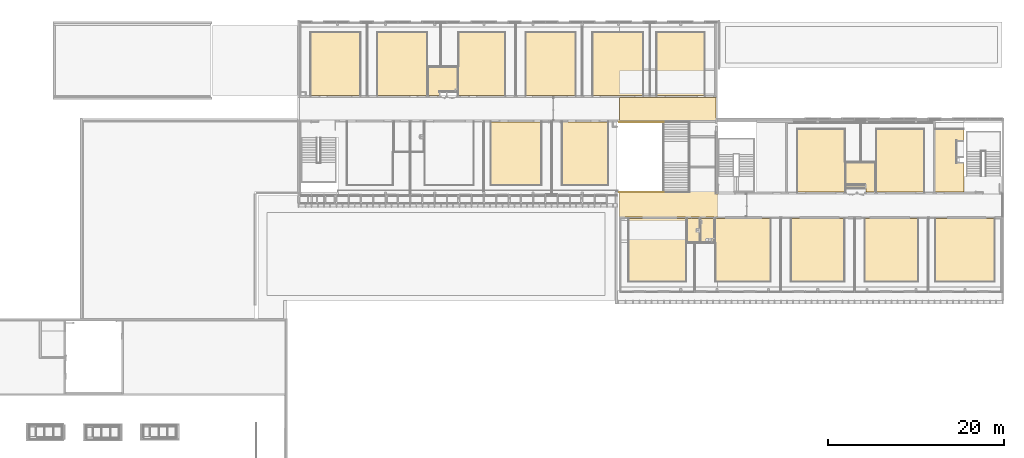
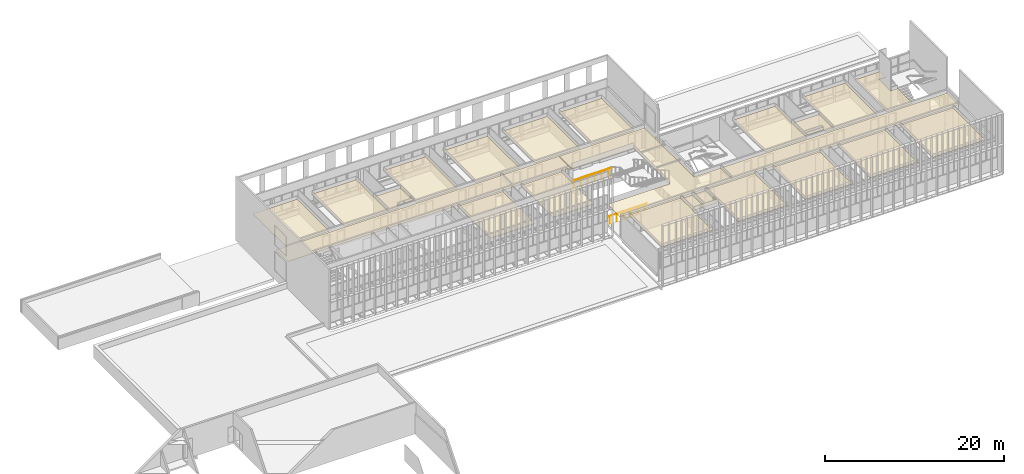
# One storey, part 103 of 106: 21 coverings, 2 railings.
"""IFC2X3 building model written with IfcOpenShell, lengths in centimetres."""

from ifc_helpers import new_model, entity, si_unit, converted_unit, derived_unit, direction, frame, frame_2d, origin, origin_2d_with_axis, place, context, subcontext, project, spatial, polyline, rectangle, outline, extrude, material, layer, layer_set, layer_usage, type_object, element, save


model = new_model("IFC2X3")

# Units and contexts
model_context = context("Model", 3, precision=0.001, world=origin(), true_north=direction((6.12303176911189e-17, 1.0)))
body_context = subcontext(model_context, "Body", "Model", "MODEL_VIEW")
ifc_project = project(units=[si_unit("LENGTHUNIT", "METRE", prefix="CENTI"), si_unit("AREAUNIT", "SQUARE_METRE"), si_unit("VOLUMEUNIT", "CUBIC_METRE"), converted_unit("PLANEANGLEUNIT", "DEGREE", entity("IfcRatioMeasure", 0.0174532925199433), si_unit("PLANEANGLEUNIT", "RADIAN"), dimensions=[0, 0, 0, 0, 0, 0, 0]), si_unit("MASSUNIT", "GRAM", prefix="KILO"), derived_unit("MASSDENSITYUNIT", [(si_unit("MASSUNIT", "GRAM", prefix="KILO"), 1), (si_unit("LENGTHUNIT", "METRE"), -3)]), si_unit("TIMEUNIT", "SECOND"), si_unit("FREQUENCYUNIT", "HERTZ"), si_unit("THERMODYNAMICTEMPERATUREUNIT", "DEGREE_CELSIUS"), derived_unit("THERMALTRANSMITTANCEUNIT", [(si_unit("MASSUNIT", "GRAM", prefix="KILO"), 1), (si_unit("THERMODYNAMICTEMPERATUREUNIT", "KELVIN"), -1), (si_unit("TIMEUNIT", "SECOND"), -3)]), derived_unit("VOLUMETRICFLOWRATEUNIT", [(si_unit("LENGTHUNIT", "METRE"), 3), (si_unit("TIMEUNIT", "SECOND"), -1)]), si_unit("ELECTRICCURRENTUNIT", "AMPERE"), si_unit("ELECTRICVOLTAGEUNIT", "VOLT"), si_unit("POWERUNIT", "WATT"), si_unit("FORCEUNIT", "NEWTON", prefix="KILO"), si_unit("ILLUMINANCEUNIT", "LUX"), si_unit("LUMINOUSFLUXUNIT", "LUMEN"), si_unit("LUMINOUSINTENSITYUNIT", "CANDELA"), derived_unit("USERDEFINED", [(si_unit("MASSUNIT", "GRAM", prefix="KILO"), -1), (si_unit("LENGTHUNIT", "METRE"), -2), (si_unit("TIMEUNIT", "SECOND"), 3), (si_unit("LUMINOUSFLUXUNIT", "LUMEN"), 1)]), derived_unit("LINEARVELOCITYUNIT", [(si_unit("LENGTHUNIT", "METRE"), 1), (si_unit("TIMEUNIT", "SECOND"), -1)]), si_unit("PRESSUREUNIT", "PASCAL"), derived_unit("USERDEFINED", [(si_unit("LENGTHUNIT", "METRE"), -2), (si_unit("MASSUNIT", "GRAM", prefix="KILO"), 1), (si_unit("TIMEUNIT", "SECOND"), -2)])], contexts=[model_context])

# Site, building, storey, space
site_placement = place(None, frame((-2781.94577612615, 7442.24238424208, 0.0)))
site = spatial("IfcSite", under=ifc_project, at=site_placement, Name="Default", CompositionType="ELEMENT")
building_placement = place(site_placement, origin())
building = spatial("IfcBuilding", under=site, at=building_placement, CompositionType="ELEMENT")
storey_placement = place(building_placement, frame((0.0, 0.0, 422.0)))
storey = spatial("IfcBuildingStorey", under=building, at=storey_placement, Name="Toiture - Cuisine", CompositionType="ELEMENT", Elevation=421.999999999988)
space_1_placement = place(building_placement, frame((0.0, 0.0, 422.0)))
space_1 = spatial("IfcSpace", under=storey, at=space_1_placement, Name="A-3", CompositionType="ELEMENT", InteriorOrExteriorSpace="INTERNAL")

# Covering
ifc_material_1 = material(Name="00 - VIDE D'AIR")
ifc_layer_1 = layer(ifc_material_1, 5.7)
ifc_material_2 = material(Name="01 - Enduit/Plâtre - faux plafonds")
ifc_layer_2 = layer(ifc_material_2, 1.3)
ifc_layer_set = layer_set([ifc_layer_1, ifc_layer_2], Name="Plafond composé:11-Plafond 1BA13")
ifc_layer_usage_1 = layer_usage(ifc_layer_set, "AXIS3", "POSITIVE", 0.0)
covering_type_1 = type_object("IfcCoveringType", Name="Plafond composé:11-Plafond 1BA13", PredefinedType="CEILING")
covering_1_placement = place(space_1_placement, origin())
element("IfcCovering", 1, at=covering_1_placement, inside=space_1, type_object=covering_type_1, material=ifc_layer_usage_1, Name="Plafond composé:11-Plafond 1BA13", ObjectType="Plafond composé:11-Plafond 1BA13", PredefinedType="CEILING", context=body_context, shape_type="SweptSolid", body=[
    extrude(outline(polyline([(-128.333333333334, -146.0), (206.666666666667, -146.0), (206.666666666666, 188.0), (-78.3333333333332, 188.0), (-78.3333333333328, -42.0), (-128.333333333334, -42.0), (-128.333333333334, -146.0)])), frame((-2001.49988284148, -1781.74570030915, 270.0), z_axis=(0.0, 0.0, 1.0), x_axis=(0.0, 1.0, 0.0)), (0.0, 0.0, 1.0), 7.00000000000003),
])

# Space
space_2_placement = place(building_placement, frame((0.0, 0.0, 422.0)))
space_2 = spatial("IfcSpace", under=storey, at=space_2_placement, Name="A-1", CompositionType="ELEMENT", InteriorOrExteriorSpace="INTERNAL")

# Covering
ifc_layer_usage_2 = layer_usage(ifc_layer_set, "AXIS3", "POSITIVE", 0.0)
covering_type_2 = type_object("IfcCoveringType", Name="Plafond composé:11-Plafond 1BA13", PredefinedType="CEILING")
covering_2_placement = place(space_2_placement, origin())
element("IfcCovering", 2, at=covering_2_placement, inside=space_2, type_object=covering_type_2, material=ifc_layer_usage_2, Name="Plafond composé:11-Plafond 1BA13", ObjectType="Plafond composé:11-Plafond 1BA13", PredefinedType="CEILING", context=body_context, shape_type="SweptSolid", body=[
    extrude(rectangle(XDim=718.048500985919, YDim=567.899997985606, at=frame_2d((-1.13686837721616e-13, -4.2632564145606e-13), x_axis=(1.0, 0.0))), frame((-7998.24987867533, -451.024250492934, 270.0), z_axis=(0.0, 0.0, 1.0), x_axis=(0.0, 1.0, 0.0)), (0.0, 0.0, 1.0), 7.00000000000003),
])

# Space
space_3_placement = place(building_placement, frame((0.0, 0.0, 422.0)))
space_3 = spatial("IfcSpace", under=storey, at=space_3_placement, Name="A-1", CompositionType="ELEMENT", InteriorOrExteriorSpace="INTERNAL")

# Covering
ifc_layer_usage_3 = layer_usage(ifc_layer_set, "AXIS3", "POSITIVE", 0.0)
covering_type_3 = type_object("IfcCoveringType", Name="Plafond composé:11-Plafond 1BA13", PredefinedType="CEILING")
covering_3_placement = place(space_3_placement, origin())
element("IfcCovering", 3, at=covering_3_placement, inside=space_3, type_object=covering_type_3, material=ifc_layer_usage_3, Name="Plafond composé:11-Plafond 1BA13", ObjectType="Plafond composé:11-Plafond 1BA13", PredefinedType="CEILING", context=body_context, shape_type="SweptSolid", body=[
    extrude(outline(polyline([(-367.032333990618, -378.0), (351.016166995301, -378.0), (351.016166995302, 190.0), (16.0161669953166, 190.0), (16.0161669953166, 188.0), (-367.032333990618, 188.0), (-367.032333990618, -378.0)])), frame((-7143.79987968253, -459.032333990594, 270.0), z_axis=(0.0, 0.0, 1.0), x_axis=(0.0, -1.0, 0.0)), (0.0, 0.0, 1.0), 7.00000000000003),
])

# Space
space_4_placement = place(building_placement, frame((0.0, 0.0, 422.0)))
space_4 = spatial("IfcSpace", under=storey, at=space_4_placement, Name="A-3", CompositionType="ELEMENT", InteriorOrExteriorSpace="INTERNAL")

# Covering
ifc_layer_usage_4 = layer_usage(ifc_layer_set, "AXIS3", "POSITIVE", 0.0)
covering_type_4 = type_object("IfcCoveringType", Name="Plafond composé:11-Plafond 1BA13", PredefinedType="CEILING")
covering_4_placement = place(space_4_placement, origin())
element("IfcCovering", 4, at=covering_4_placement, inside=space_4, type_object=covering_type_4, material=ifc_layer_usage_4, Name="Plafond composé:11-Plafond 1BA13", ObjectType="Plafond composé:11-Plafond 1BA13", PredefinedType="CEILING", context=body_context, shape_type="SweptSolid", body=[
    extrude(outline(polyline([(-125.0, -26.0), (-125.0, -154.0), (200.0, -154.0), (200.0, 180.0), (-75.0, 180.0), (-75.0, -26.0), (-125.0, -26.0)])), frame((-6789.79987968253, -685.048500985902, 270.0), z_axis=(0.0, 0.0, -1.0), x_axis=(0.0, 1.0, 0.0)), (0.0, 0.0, -1.0), 7.00000000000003),
])

# Space
space_5_placement = place(building_placement, frame((0.0, 0.0, 422.0)))
space_5 = spatial("IfcSpace", under=storey, at=space_5_placement, Name="A-1", CompositionType="ELEMENT", InteriorOrExteriorSpace="INTERNAL")

# Covering
ifc_layer_usage_5 = layer_usage(ifc_layer_set, "AXIS3", "POSITIVE", 0.0)
covering_type_5 = type_object("IfcCoveringType", Name="Plafond composé:11-Plafond 1BA13", PredefinedType="CEILING")
covering_5_placement = place(space_5_placement, origin())
element("IfcCovering", 5, at=covering_5_placement, inside=space_5, type_object=covering_type_5, material=ifc_layer_usage_5, Name="Plafond composé:11-Plafond 1BA13", ObjectType="Plafond composé:11-Plafond 1BA13", PredefinedType="CEILING", context=body_context, shape_type="SweptSolid", body=[
    extrude(outline(polyline([(-351.016166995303, -355.333333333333), (367.032333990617, -355.333333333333), (367.032333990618, 176.666666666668), (-16.0161669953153, 176.666666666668), (-16.0161669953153, 178.666666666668), (-351.016166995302, 178.666666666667), (-351.016166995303, -355.333333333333)])), frame((-6421.13321301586, -459.032333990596, 270.0), z_axis=(0.0, 0.0, 1.0), x_axis=(0.0, 1.0, 0.0)), (0.0, 0.0, 1.0), 7.00000000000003),
])

# Space
space_6_placement = place(building_placement, frame((0.0, 0.0, 422.0)))
space_6 = spatial("IfcSpace", under=storey, at=space_6_placement, Name="A-1", CompositionType="ELEMENT", InteriorOrExteriorSpace="INTERNAL")

# Covering
ifc_layer_usage_6 = layer_usage(ifc_layer_set, "AXIS3", "POSITIVE", 0.0)
covering_type_6 = type_object("IfcCoveringType", Name="Plafond composé:11-Plafond 1BA13", PredefinedType="CEILING")
covering_6_placement = place(space_6_placement, origin())
element("IfcCovering", 6, at=covering_6_placement, inside=space_6, type_object=covering_type_6, material=ifc_layer_usage_6, Name="Plafond composé:11-Plafond 1BA13", ObjectType="Plafond composé:11-Plafond 1BA13", PredefinedType="CEILING", context=body_context, shape_type="SweptSolid", body=[
    extrude(rectangle(XDim=718.048500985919, YDim=566.012902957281, at=origin_2d_with_axis()), frame((-5548.79342820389, -451.024250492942, 270.0), z_axis=(0.0, 0.0, 1.0), x_axis=(0.0, 1.0, 0.0)), (0.0, 0.0, 1.0), 7.00000000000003),
])

# Space
space_7_placement = place(building_placement, frame((0.0, 0.0, 422.0)))
space_7 = spatial("IfcSpace", under=storey, at=space_7_placement, Name="A-1", CompositionType="ELEMENT", InteriorOrExteriorSpace="INTERNAL")

# Covering
ifc_layer_usage_7 = layer_usage(ifc_layer_set, "AXIS3", "POSITIVE", 0.0)
covering_type_7 = type_object("IfcCoveringType", Name="Plafond composé:11-Plafond 1BA13", PredefinedType="CEILING")
covering_7_placement = place(space_7_placement, origin())
element("IfcCovering", 7, at=covering_7_placement, inside=space_7, type_object=covering_type_7, material=ifc_layer_usage_7, Name="Plafond composé:11-Plafond 1BA13", ObjectType="Plafond composé:11-Plafond 1BA13", PredefinedType="CEILING", context=body_context, shape_type="SweptSolid", body=[
    extrude(rectangle(XDim=718.048500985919, YDim=576.162294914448, at=frame_2d((-1.4210854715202e-13, 0.0), x_axis=(1.0, 0.0))), frame((-4783.7187322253, -451.024250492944, 270.0), z_axis=(0.0, 0.0, 1.0), x_axis=(0.0, 1.0, 0.0)), (0.0, 0.0, 1.0), 7.00000000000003),
])

# Space
space_8_placement = place(building_placement, frame((0.0, 0.0, 422.0)))
space_8 = spatial("IfcSpace", under=storey, at=space_8_placement, Name="A-1", CompositionType="ELEMENT", InteriorOrExteriorSpace="INTERNAL")

# Covering
ifc_layer_usage_8 = layer_usage(ifc_layer_set, "AXIS3", "POSITIVE", 0.0)
covering_type_8 = type_object("IfcCoveringType", Name="Plafond composé:11-Plafond 1BA13", PredefinedType="CEILING")
covering_8_placement = place(space_8_placement, origin())
element("IfcCovering", 8, at=covering_8_placement, inside=space_8, type_object=covering_type_8, material=ifc_layer_usage_8, Name="Plafond composé:11-Plafond 1BA13", ObjectType="Plafond composé:11-Plafond 1BA13", PredefinedType="CEILING", context=body_context, shape_type="SweptSolid", body=[
    extrude(rectangle(XDim=718.079033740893, YDim=523.999999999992, at=frame_2d((-1.98951966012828e-13, -4.2632564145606e-13), x_axis=(1.0, 0.0))), frame((-5158.49987760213, -1469.03951677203, 270.0), z_axis=(0.0, 0.0, 1.0), x_axis=(0.0, -1.0, 0.0)), (0.0, 0.0, 1.0), 7.00000000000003),
])

# Space
space_9_placement = place(building_placement, frame((0.0, 0.0, 422.0)))
space_9 = spatial("IfcSpace", under=storey, at=space_9_placement, Name="A-1", CompositionType="ELEMENT", InteriorOrExteriorSpace="INTERNAL")

# Coverings
ifc_layer_usage_9 = layer_usage(ifc_layer_set, "AXIS3", "POSITIVE", 0.0)
covering_type_9 = type_object("IfcCoveringType", Name="Plafond composé:11-Plafond 1BA13", PredefinedType="CEILING")
covering_9_placement = place(space_9_placement, origin())
element("IfcCovering", 9, at=covering_9_placement, inside=space_9, type_object=covering_type_9, material=ifc_layer_usage_9, Name="Plafond composé:11-Plafond 1BA13", ObjectType="Plafond composé:11-Plafond 1BA13", PredefinedType="CEILING", context=body_context, shape_type="SweptSolid", body=[
    extrude(rectangle(XDim=718.079033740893, YDim=576.000000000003, at=frame_2d((2.27373675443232e-13, 0.0), x_axis=(1.0, 0.0))), frame((-5942.49987760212, -1469.03951677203, 270.0), z_axis=(0.0, 0.0, 1.0), x_axis=(0.0, -1.0, 0.0)), (0.0, 0.0, 1.0), 7.00000000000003),
])
ifc_layer_usage_10 = layer_usage(ifc_layer_set, "AXIS3", "POSITIVE", 0.0)
covering_type_10 = type_object("IfcCoveringType", Name="Plafond composé:11-Plafond 1BA13", PredefinedType="CEILING")
covering_10_placement = place(building_placement, frame((0.0, 0.0, 422.0)))
element("IfcCovering", 10, at=covering_10_placement, inside=storey, type_object=covering_type_10, material=ifc_layer_usage_10, Name="Plafond composé:11-Plafond 1BA13", ObjectType="Plafond composé:11-Plafond 1BA13", PredefinedType="CEILING", context=body_context, shape_type="SweptSolid", body=[
    extrude(outline(polyline([(-596.283940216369, -773.399999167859), (-336.206406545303, -773.399999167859), (-336.206406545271, -431.899999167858), (763.824126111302, -431.89999916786), (763.824126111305, 668.099998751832), (483.872627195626, 668.099998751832), (483.872627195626, -130.89999916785), (-315.206406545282, -130.89999916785), (-315.206406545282, 668.099998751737), (-596.283940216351, 668.099998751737), (-596.283940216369, -773.399999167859)])), frame((-4099.89987885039, -1593.87262709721, 270.0), z_axis=(0.0, 0.0, 1.0), x_axis=(0.0, 1.0, 0.0)), (0.0, 0.0, 1.0), 7.00000000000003),
    extrude(rectangle(XDim=3631.50000006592, YDim=259.951498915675, at=frame_2d((0.0, 7.53175299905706e-13), x_axis=(1.0, 0.0))), frame((-6593.74987763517, -960.024250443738, 270.0), z_axis=(0.0, 0.0, 1.0), x_axis=(-1.0, 0.0, 0.0)), (0.0, 0.0, 1.0), 7.00000000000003),
    extrude(rectangle(XDim=2906.49999684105, YDim=260.077533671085, at=origin_2d_with_axis()), frame((-1863.24988126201, -2060.11780047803, 270.0), z_axis=(0.0, 0.0, 1.0), x_axis=(-1.0, 0.0, 0.0)), (0.0, 0.0, 1.0), 7.00000000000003),
])

# Space
space_10_placement = place(building_placement, frame((0.0, 0.0, 422.0)))
space_10 = spatial("IfcSpace", under=storey, at=space_10_placement, Name="A-1", CompositionType="ELEMENT", InteriorOrExteriorSpace="INTERNAL")

# Covering
ifc_layer_usage_11 = layer_usage(ifc_layer_set, "AXIS3", "POSITIVE", 0.0)
covering_type_11 = type_object("IfcCoveringType", Name="Plafond composé:11-Plafond 1BA13", PredefinedType="CEILING")
covering_11_placement = place(space_10_placement, origin())
element("IfcCovering", 11, at=covering_11_placement, inside=space_10, type_object=covering_type_11, material=ifc_layer_usage_11, Name="Plafond composé:11-Plafond 1BA13", ObjectType="Plafond composé:11-Plafond 1BA13", PredefinedType="CEILING", context=body_context, shape_type="SweptSolid", body=[
    extrude(rectangle(XDim=718.048500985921, YDim=548.500000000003, at=frame_2d((-3.97903932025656e-13, 4.2632564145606e-13), x_axis=(1.0, 0.0))), frame((-4069.54987968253, -451.024250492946, 270.0), z_axis=(0.0, 0.0, 1.0), x_axis=(0.0, 1.0, 0.0)), (0.0, 0.0, 1.0), 7.00000000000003),
])

# Space
space_11_placement = place(building_placement, frame((0.0, 0.0, 422.0)))
space_11 = spatial("IfcSpace", under=storey, at=space_11_placement, Name="A-1", CompositionType="ELEMENT", InteriorOrExteriorSpace="INTERNAL")

# Covering
ifc_layer_usage_12 = layer_usage(ifc_layer_set, "AXIS3", "POSITIVE", 0.0)
covering_type_12 = type_object("IfcCoveringType", Name="Plafond composé:11-Plafond 1BA13", PredefinedType="CEILING")
covering_12_placement = place(space_11_placement, origin())
element("IfcCovering", 12, at=covering_12_placement, inside=space_11, type_object=covering_type_12, material=ifc_layer_usage_12, Name="Plafond composé:11-Plafond 1BA13", ObjectType="Plafond composé:11-Plafond 1BA13", PredefinedType="CEILING", context=body_context, shape_type="SweptSolid", body=[
    extrude(outline(polyline([(-332.718977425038, -210.0), (-52.7189774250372, -210.0), (-52.7189774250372, -208.0), (385.437954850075, -208.0), (385.437954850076, 418.0), (-332.718977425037, 418.0), (-332.718977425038, -210.0)])), frame((-3465.29988284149, -2542.8755447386, 270.0), z_axis=(0.0, 0.0, 1.0), x_axis=(0.0, -1.0, 0.0)), (0.0, 0.0, 1.0), 7.00000000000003),
])

# Space
space_12_placement = place(building_placement, frame((0.0, 0.0, 422.0)))
space_12 = spatial("IfcSpace", under=storey, at=space_12_placement, Name="A-1", CompositionType="ELEMENT", InteriorOrExteriorSpace="INTERNAL")

# Covering
ifc_layer_usage_13 = layer_usage(ifc_layer_set, "AXIS3", "POSITIVE", 0.0)
covering_type_13 = type_object("IfcCoveringType", Name="Plafond composé:11-Plafond 1BA13", PredefinedType="CEILING")
covering_13_placement = place(space_12_placement, origin())
element("IfcCovering", 13, at=covering_13_placement, inside=space_12, type_object=covering_type_13, material=ifc_layer_usage_13, Name="Plafond composé:11-Plafond 1BA13", ObjectType="Plafond composé:11-Plafond 1BA13", PredefinedType="CEILING", context=body_context, shape_type="SweptSolid", body=[
    extrude(rectangle(XDim=605.999999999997, YDim=718.156932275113, at=frame_2d((-2.27373675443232e-13, -2.27373675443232e-13), x_axis=(1.0, 0.0))), frame((-2510.29988284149, -2569.23503345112, 270.0), z_axis=(0.0, 0.0, 1.0), x_axis=(-1.0, 0.0, 0.0)), (0.0, 0.0, 1.0), 7.00000000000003),
])

# Space
space_13_placement = place(building_placement, frame((0.0, 0.0, 422.0)))
space_13 = spatial("IfcSpace", under=storey, at=space_13_placement, Name="A-1", CompositionType="ELEMENT", InteriorOrExteriorSpace="INTERNAL")

# Covering
ifc_layer_usage_14 = layer_usage(ifc_layer_set, "AXIS3", "POSITIVE", 0.0)
covering_type_14 = type_object("IfcCoveringType", Name="Plafond composé:11-Plafond 1BA13", PredefinedType="CEILING")
covering_14_placement = place(space_13_placement, origin())
element("IfcCovering", 14, at=covering_14_placement, inside=space_13, type_object=covering_type_14, material=ifc_layer_usage_14, Name="Plafond composé:11-Plafond 1BA13", ObjectType="Plafond composé:11-Plafond 1BA13", PredefinedType="CEILING", context=body_context, shape_type="SweptSolid", body=[
    extrude(rectangle(XDim=606.000000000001, YDim=718.156932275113, at=origin_2d_with_axis()), frame((-1670.29988284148, -2569.23503345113, 270.0), z_axis=(0.0, 0.0, 1.0), x_axis=(-1.0, 0.0, 0.0)), (0.0, 0.0, 1.0), 7.00000000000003),
])

# Space
space_14_placement = place(building_placement, frame((0.0, 0.0, 422.0)))
space_14 = spatial("IfcSpace", under=storey, at=space_14_placement, Name="A-1", CompositionType="ELEMENT", InteriorOrExteriorSpace="INTERNAL")

# Covering
ifc_layer_usage_15 = layer_usage(ifc_layer_set, "AXIS3", "POSITIVE", 0.0)
covering_type_15 = type_object("IfcCoveringType", Name="Plafond composé:11-Plafond 1BA13", PredefinedType="CEILING")
covering_15_placement = place(space_14_placement, origin())
element("IfcCovering", 15, at=covering_15_placement, inside=space_14, type_object=covering_type_15, material=ifc_layer_usage_15, Name="Plafond composé:11-Plafond 1BA13", ObjectType="Plafond composé:11-Plafond 1BA13", PredefinedType="CEILING", context=body_context, shape_type="SweptSolid", body=[
    extrude(rectangle(XDim=676.0, YDim=718.156932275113, at=frame_2d((-2.27373675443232e-13, 0.0), x_axis=(1.0, 0.0))), frame((-835.299882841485, -2569.23503345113, 270.0), z_axis=(0.0, 0.0, 1.0), x_axis=(-1.0, 0.0, 0.0)), (0.0, 0.0, 1.0), 7.00000000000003),
])

# Space
space_15_placement = place(building_placement, frame((0.0, 0.0, 422.0)))
space_15 = spatial("IfcSpace", under=storey, at=space_15_placement, Name="E-6", CompositionType="ELEMENT", InteriorOrExteriorSpace="INTERNAL")

# Covering
ifc_layer_usage_16 = layer_usage(ifc_layer_set, "AXIS3", "POSITIVE", 0.0)
covering_type_16 = type_object("IfcCoveringType", Name="Plafond composé:11-Plafond 1BA13", PredefinedType="CEILING")
covering_16_placement = place(space_15_placement, origin())
element("IfcCovering", 16, at=covering_16_placement, inside=space_15, type_object=covering_type_16, material=ifc_layer_usage_16, Name="Plafond composé:11-Plafond 1BA13", ObjectType="Plafond composé:11-Plafond 1BA13", PredefinedType="CEILING", context=body_context, shape_type="SweptSolid", body=[
    extrude(outline(polyline([(-225.0, -409.519758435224), (105.0, -409.519758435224), (105.0, -79.5197584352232), (15.0, -79.5197584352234), (15.0, 180.480241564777), (105.0, 180.480241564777), (105.0, 308.55927530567), (-225.0, 308.55927530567), (-225.0, -409.519758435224)])), frame((-950.299882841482, -1500.55927520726, 270.0)), (0.0, 0.0, 1.0), 7.00000000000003),
])

# Space
space_16_placement = place(building_placement, frame((0.0, 0.0, 422.0)))
space_16 = spatial("IfcSpace", under=storey, at=space_16_placement, Name="A-1", CompositionType="ELEMENT", InteriorOrExteriorSpace="INTERNAL")

# Covering
ifc_layer_usage_17 = layer_usage(ifc_layer_set, "AXIS3", "POSITIVE", 0.0)
covering_type_17 = type_object("IfcCoveringType", Name="Plafond composé:11-Plafond 1BA13", PredefinedType="CEILING")
covering_17_placement = place(space_16_placement, origin())
element("IfcCovering", 17, at=covering_17_placement, inside=space_16, type_object=covering_type_17, material=ifc_layer_usage_17, Name="Plafond composé:11-Plafond 1BA13", ObjectType="Plafond composé:11-Plafond 1BA13", PredefinedType="CEILING", context=body_context, shape_type="SweptSolid", body=[
    extrude(outline(polyline([(9.35967791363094, -183.399999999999), (354.359677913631, -183.399999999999), (354.359677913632, 364.800000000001), (-363.719355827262, 364.800000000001), (-363.719355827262, -181.400000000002), (9.35967791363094, -181.400000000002), (9.35967791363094, -183.399999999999)])), frame((-1662.09988284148, -1555.71935572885, 270.0), z_axis=(0.0, 0.0, 1.0), x_axis=(0.0, -1.0, 0.0)), (0.0, 0.0, 1.0), 7.00000000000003),
])

# Space
space_17_placement = place(building_placement, frame((0.0, 0.0, 422.0)))
space_17 = spatial("IfcSpace", under=storey, at=space_17_placement, Name="A-1", CompositionType="ELEMENT", InteriorOrExteriorSpace="INTERNAL")

# Covering
ifc_layer_usage_18 = layer_usage(ifc_layer_set, "AXIS3", "POSITIVE", 0.0)
covering_type_18 = type_object("IfcCoveringType", Name="Plafond composé:11-Plafond 1BA13", PredefinedType="CEILING")
covering_18_placement = place(space_17_placement, origin())
element("IfcCovering", 18, at=covering_18_placement, inside=space_17, type_object=covering_type_18, material=ifc_layer_usage_18, Name="Plafond composé:11-Plafond 1BA13", ObjectType="Plafond composé:11-Plafond 1BA13", PredefinedType="CEILING", context=body_context, shape_type="SweptSolid", body=[
    extrude(outline(polyline([(-265.165438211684, -155.942857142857), (34.834561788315, -155.942857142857), (34.834561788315, -153.942857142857), (407.913595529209, -153.942857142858), (407.913595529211, 387.857142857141), (-310.165438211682, 387.857142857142), (-310.165438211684, -155.942857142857), (-265.165438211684, -155.942857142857)])), frame((-2355.44273998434, -1599.9135954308, 270.0), z_axis=(0.0, 0.0, 1.0), x_axis=(0.0, 1.0, 0.0)), (0.0, 0.0, 1.0), 7.00000000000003),
])

# Space
space_18_placement = place(building_placement, frame((0.0, 0.0, 422.0)))
space_18 = spatial("IfcSpace", under=storey, at=space_18_placement, Name="E-8.4", CompositionType="ELEMENT", InteriorOrExteriorSpace="INTERNAL")

# Covering
ifc_layer_usage_19 = layer_usage(ifc_layer_set, "AXIS3", "POSITIVE", 0.0)
covering_type_19 = type_object("IfcCoveringType", Name="Plafond composé:11-Plafond 1BA13", PredefinedType="CEILING")
covering_19_placement = place(space_18_placement, origin())
element("IfcCovering", 19, at=covering_19_placement, inside=space_18, type_object=covering_type_19, material=ifc_layer_usage_19, Name="Plafond composé:11-Plafond 1BA13", ObjectType="Plafond composé:11-Plafond 1BA13", PredefinedType="CEILING", context=body_context, shape_type="SweptSolid", body=[
    extrude(rectangle(XDim=141.899994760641, YDim=270.0, at=frame_2d((4.33431068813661e-13, 2.27373675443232e-13), x_axis=(1.0, 0.0))), frame((-3923.24988022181, -2345.15656731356, 260.0)), (0.0, 0.0, 1.0), 7.00000000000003),
])

# Space
space_19_placement = place(building_placement, frame((0.0, 0.0, 422.0)))
space_19 = spatial("IfcSpace", under=storey, at=space_19_placement, Name="B-21", CompositionType="ELEMENT", InteriorOrExteriorSpace="INTERNAL")

# Covering
ifc_layer_usage_20 = layer_usage(ifc_layer_set, "AXIS3", "POSITIVE", 0.0)
covering_type_20 = type_object("IfcCoveringType", Name="Plafond composé:11-Plafond 1BA13", PredefinedType="CEILING")
covering_20_placement = place(space_19_placement, origin())
element("IfcCovering", 20, at=covering_20_placement, inside=space_19, type_object=covering_type_20, material=ifc_layer_usage_20, Name="Plafond composé:11-Plafond 1BA13", ObjectType="Plafond composé:11-Plafond 1BA13", PredefinedType="CEILING", context=body_context, shape_type="SweptSolid", body=[
    extrude(rectangle(XDim=157.0, YDim=270.000000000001, at=frame_2d((4.33431068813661e-13, 0.0), x_axis=(1.0, 0.0))), frame((-3763.79988284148, -2345.15656731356, 260.0)), (0.0, 0.0, 1.0), 7.00000000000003),
])

# Space
space_20_placement = place(building_placement, frame((0.0, 0.0, 422.0)))
space_20 = spatial("IfcSpace", under=storey, at=space_20_placement, Name="A-1", CompositionType="ELEMENT", InteriorOrExteriorSpace="INTERNAL")

# Covering
ifc_layer_usage_21 = layer_usage(ifc_layer_set, "AXIS3", "POSITIVE", 0.0)
covering_type_21 = type_object("IfcCoveringType", Name="Plafond composé:11-Plafond 1BA13", PredefinedType="CEILING")
covering_21_placement = place(space_20_placement, origin())
element("IfcCovering", 21, at=covering_21_placement, inside=space_20, type_object=covering_type_21, material=ifc_layer_usage_21, Name="Plafond composé:11-Plafond 1BA13", ObjectType="Plafond composé:11-Plafond 1BA13", PredefinedType="CEILING", context=body_context, shape_type="SweptSolid", body=[
    extrude(outline(polyline([(-220.0, -332.718977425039), (438.0, -332.718977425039), (438.0, 385.437954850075), (-218.0, 385.437954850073), (-218.0, -52.7189774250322), (-220.0, -52.7189774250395), (-220.0, -332.718977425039)])), frame((-4224.19987760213, -2542.8755447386, 270.0), z_axis=(0.0, 0.0, 1.0), x_axis=(-1.0, 0.0, 0.0)), (0.0, 0.0, 1.0), 7.00000000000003),
])

# Railings
ifc_material_3 = material(Name="Métal - Acier inoxydable, poli")
railing_1_placement = place(building_placement, frame((0.0, 0.0, 422.0)))
element("IfcRailing", 22, at=railing_1_placement, inside=storey, material=ifc_material_3, Name="Garde-corps:Garde corps 1A0cmHT", ObjectType="Garde-corps:Garde corps 1A0cmHT", PredefinedType="NOTDEFINED", context=body_context, shape_type="SweptSolid", body=[
    extrude(rectangle(XDim=5.00000000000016, YDim=1.19999999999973, at=frame_2d((-1.08357767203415e-13, 0.0), x_axis=(1.0, 0.0))), frame((-4291.47987864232, -1109.49999990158, 0.0), z_axis=(0.0, 0.0, 1.0), x_axis=(0.0, -1.0, 0.0)), (0.0, 0.0, 1.0), 109.5),
    extrude(rectangle(XDim=5.00000000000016, YDim=1.19999999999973, at=frame_2d((1.08357767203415e-13, 0.0), x_axis=(1.0, 0.0))), frame((-4381.47987864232, -1109.49999990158, 0.0), z_axis=(0.0, 0.0, 1.0), x_axis=(0.0, -1.0, 0.0)), (0.0, 0.0, 1.0), 109.5),
    extrude(rectangle(XDim=5.00000000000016, YDim=1.19999999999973, at=frame_2d((1.08357767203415e-13, 0.0), x_axis=(1.0, 0.0))), frame((-4471.47987864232, -1109.49999990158, 0.0), z_axis=(0.0, 0.0, 1.0), x_axis=(0.0, -1.0, 0.0)), (0.0, 0.0, 1.0), 109.5),
    extrude(rectangle(XDim=5.00000000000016, YDim=1.19999999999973, at=frame_2d((-1.08357767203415e-13, 0.0), x_axis=(1.0, 0.0))), frame((-4561.47987864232, -1109.49999990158, 0.0), z_axis=(0.0, 0.0, 1.0), x_axis=(0.0, -1.0, 0.0)), (0.0, 0.0, 1.0), 109.5),
    extrude(rectangle(XDim=5.00000000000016, YDim=1.19999999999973, at=frame_2d((-1.08357767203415e-13, 0.0), x_axis=(1.0, 0.0))), frame((-4651.47987864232, -1109.49999990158, 0.0), z_axis=(0.0, 0.0, 1.0), x_axis=(0.0, -1.0, 0.0)), (0.0, 0.0, 1.0), 109.5),
    extrude(rectangle(XDim=5.00000000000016, YDim=1.19999999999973, at=frame_2d((-1.08357767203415e-13, 0.0), x_axis=(1.0, 0.0))), frame((-4741.47987864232, -1109.49999990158, 0.0), z_axis=(0.0, 0.0, 1.0), x_axis=(0.0, -1.0, 0.0)), (0.0, 0.0, 1.0), 109.5),
    extrude(rectangle(XDim=503.039997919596, YDim=4.99999999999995, at=frame_2d((0.0, 2.16493489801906e-13), x_axis=(1.0, 0.0))), frame((-4516.47987864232, -1109.49999990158, 109.5)), (0.0, 0.0, 1.0), 0.999999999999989),
])
railing_2_placement = place(building_placement, frame((0.0, 0.0, 422.0)))
element("IfcRailing", 23, at=railing_2_placement, inside=storey, material=ifc_material_3, Name="Garde-corps:Garde corps 1A0cmHT", ObjectType="Garde-corps:Garde corps 1A0cmHT", PredefinedType="NOTDEFINED", context=body_context, shape_type="SweptSolid", body=[
    extrude(rectangle(XDim=5.00000000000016, YDim=1.19999999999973, at=frame_2d((1.08357767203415e-13, 0.0), x_axis=(1.0, 0.0))), frame((-4291.47987864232, -1910.57903364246, 0.0), z_axis=(0.0, 0.0, 1.0), x_axis=(0.0, -1.0, 0.0)), (0.0, 0.0, 1.0), 109.5),
    extrude(rectangle(XDim=5.00000000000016, YDim=1.19999999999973, at=frame_2d((-1.08357767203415e-13, 0.0), x_axis=(1.0, 0.0))), frame((-4381.47987864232, -1910.57903364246, 0.0), z_axis=(0.0, 0.0, 1.0), x_axis=(0.0, -1.0, 0.0)), (0.0, 0.0, 1.0), 109.5),
    extrude(rectangle(XDim=5.00000000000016, YDim=1.19999999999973, at=frame_2d((-1.08357767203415e-13, 0.0), x_axis=(1.0, 0.0))), frame((-4471.47987864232, -1910.57903364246, 0.0), z_axis=(0.0, 0.0, 1.0), x_axis=(0.0, -1.0, 0.0)), (0.0, 0.0, 1.0), 109.5),
    extrude(rectangle(XDim=5.00000000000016, YDim=1.19999999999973, at=frame_2d((-1.08357767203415e-13, 0.0), x_axis=(1.0, 0.0))), frame((-4561.47987864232, -1910.57903364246, 0.0), z_axis=(0.0, 0.0, 1.0), x_axis=(0.0, -1.0, 0.0)), (0.0, 0.0, 1.0), 109.5),
    extrude(rectangle(XDim=5.00000000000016, YDim=1.19999999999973, at=frame_2d((-1.08357767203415e-13, 0.0), x_axis=(1.0, 0.0))), frame((-4651.47987864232, -1910.57903364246, 0.0), z_axis=(0.0, 0.0, 1.0), x_axis=(0.0, -1.0, 0.0)), (0.0, 0.0, 1.0), 109.5),
    extrude(rectangle(XDim=5.00000000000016, YDim=1.19999999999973, at=frame_2d((1.08357767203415e-13, 0.0), x_axis=(1.0, 0.0))), frame((-4741.47987864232, -1910.57903364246, 0.0), z_axis=(0.0, 0.0, 1.0), x_axis=(0.0, -1.0, 0.0)), (0.0, 0.0, 1.0), 109.5),
    extrude(rectangle(XDim=503.039997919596, YDim=4.99999999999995, at=origin_2d_with_axis()), frame((-4516.47987864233, -1910.57903364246, 109.5)), (0.0, 0.0, 1.0), 0.999999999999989),
])

save(model, "model.ifc")
